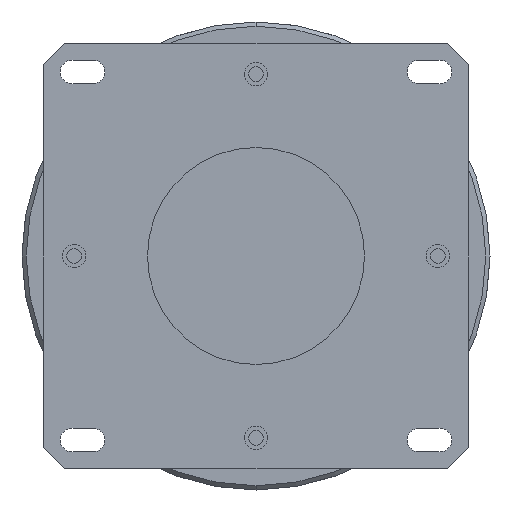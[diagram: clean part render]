
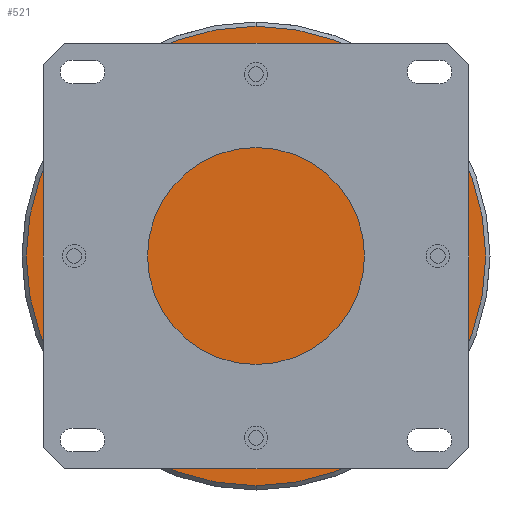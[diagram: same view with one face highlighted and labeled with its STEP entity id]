
A CAD part, front view. The second image highlights one B-rep face of the part: STEP entity #521.
In plain terms, the highlighted planar face has unit normal (0, -1, 0).
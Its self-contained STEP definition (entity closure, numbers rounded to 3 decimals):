
#521 = ADVANCED_FACE ( 'NONE', ( #1310 ), #7306, .T. ) ;
#758 = CARTESIAN_POINT ( 'NONE',  ( -1309.559, -1267.898, 0. ) ) ;
#890 = AXIS2_PLACEMENT_3D ( 'NONE', #1715, #7058, #3611 ) ;
#1310 = FACE_OUTER_BOUND ( 'NONE', #6254, .T. ) ;
#1511 = CIRCLE ( 'NONE', #890, 108. ) ;
#1715 = CARTESIAN_POINT ( 'NONE',  ( -1309.559, -1267.898, 0. ) ) ;
#1960 = EDGE_CURVE ( 'NONE', #3425, #5555, #5778, .T. ) ;
#2106 = EDGE_CURVE ( 'NONE', #5555, #3425, #1511, .T. ) ;
#2107 = AXIS2_PLACEMENT_3D ( 'NONE', #2365, #5390, #2442 ) ;
#2365 = CARTESIAN_POINT ( 'NONE',  ( -1309.559, -1267.898, 0. ) ) ;
#2442 = DIRECTION ( 'NONE',  ( 0., 0., -1. ) ) ;
#3066 = CARTESIAN_POINT ( 'NONE',  ( -1309.559, -1267.898, 108. ) ) ;
#3115 = ORIENTED_EDGE ( 'NONE', *, *, #1960, .T. ) ;
#3144 = DIRECTION ( 'NONE',  ( 0., 0., 1. ) ) ;
#3425 = VERTEX_POINT ( 'NONE', #3066 ) ;
#3527 = ORIENTED_EDGE ( 'NONE', *, *, #2106, .T. ) ;
#3611 = DIRECTION ( 'NONE',  ( 0., 0., 1. ) ) ;
#4503 = CARTESIAN_POINT ( 'NONE',  ( -1309.559, -1267.898, -108. ) ) ;
#4769 = AXIS2_PLACEMENT_3D ( 'NONE', #758, #6790, #3144 ) ;
#5390 = DIRECTION ( 'NONE',  ( 0., -1., 0. ) ) ;
#5555 = VERTEX_POINT ( 'NONE', #4503 ) ;
#5778 = CIRCLE ( 'NONE', #4769, 108. ) ;
#6254 = EDGE_LOOP ( 'NONE', ( #3115, #3527 ) ) ;
#6790 = DIRECTION ( 'NONE',  ( 0., -1., 0. ) ) ;
#7058 = DIRECTION ( 'NONE',  ( 0., -1., 0. ) ) ;
#7306 = PLANE ( 'NONE',  #2107 ) ;
